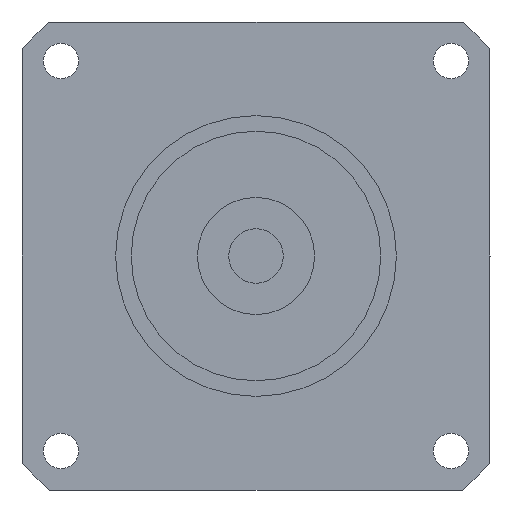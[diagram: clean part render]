
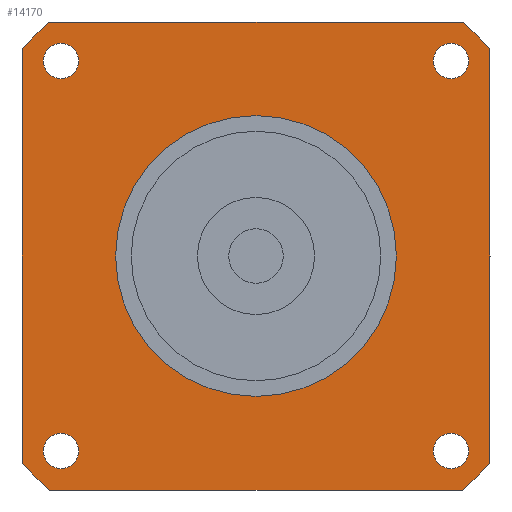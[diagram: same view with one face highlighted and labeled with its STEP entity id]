
A CAD part, left-side view. The second image highlights one B-rep face of the part: STEP entity #14170.
In plain terms, the highlighted planar face has unit normal (-1, 0, 0) as drawn and (0, 0, -1) by its records, which use the part's own axes.
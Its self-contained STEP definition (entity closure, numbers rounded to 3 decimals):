
#8830=CARTESIAN_POINT('',(-30.,-26.458,-35.1));
#8840=VERTEX_POINT('',#8830);
#8890=CARTESIAN_POINT('',(-30.,-30.,-35.1));
#8900=DIRECTION('',(0.,1.,0.));
#8910=VECTOR('',#8900,1000.);
#8920=LINE('',#8890,#8910);
#8930=CARTESIAN_POINT('',(-30.,26.458,-35.1));
#8940=VERTEX_POINT('',#8930);
#8950=EDGE_CURVE('',#8840,#8940,#8920,.T.);
#9340=CARTESIAN_POINT('',(22.75,-25.,-35.1));
#9350=VERTEX_POINT('',#9340);
#9380=CARTESIAN_POINT('',(25.,-25.,-35.1));
#9390=DIRECTION('',(0.,0.,-1.));
#9400=DIRECTION('',(1.,0.,0.));
#9410=AXIS2_PLACEMENT_3D('',#9380,#9390,#9400);
#9420=CIRCLE('',#9410,2.25);
#9430=CARTESIAN_POINT('',(27.25,-25.,-35.1));
#9440=VERTEX_POINT('',#9430);
#9450=EDGE_CURVE('',#9440,#9350,#9420,.T.);
#12690=CARTESIAN_POINT('',(-25.,-22.75,-35.1));
#12700=VERTEX_POINT('',#12690);
#12730=CARTESIAN_POINT('',(-25.,-25.,-35.1));
#12740=DIRECTION('',(0.,0.,-1.));
#12750=DIRECTION('',(0.,-1.,0.));
#12760=AXIS2_PLACEMENT_3D('',#12730,#12740,#12750);
#12770=CIRCLE('',#12760,2.25);
#12780=CARTESIAN_POINT('',(-25.,-27.25,-35.1));
#12790=VERTEX_POINT('',#12780);
#12800=EDGE_CURVE('',#12790,#12700,#12770,.T.);
#12920=CARTESIAN_POINT('',(30.,30.,-35.1));
#12930=DIRECTION('',(0.,0.,-1.));
#12940=DIRECTION('',(1.,0.,0.));
#12950=AXIS2_PLACEMENT_3D('',#12920,#12930,#12940);
#12960=PLANE('',#12950);
#12970=ORIENTED_EDGE('',*,*,#12800,.F.);
#12980=EDGE_CURVE('',#12700,#12790,#12770,.T.);
#12990=ORIENTED_EDGE('',*,*,#12980,.F.);
#13000=EDGE_LOOP('',(#12990,#12970));
#13010=FACE_BOUND('',#13000,.T.);
#13020=CARTESIAN_POINT('',(-25.,25.,-35.1));
#13030=DIRECTION('',(0.,0.,-1.));
#13040=DIRECTION('',(-1.,0.,0.));
#13050=AXIS2_PLACEMENT_3D('',#13020,#13030,#13040);
#13060=CIRCLE('',#13050,2.25);
#13070=CARTESIAN_POINT('',(-27.25,25.,-35.1));
#13080=VERTEX_POINT('',#13070);
#13090=CARTESIAN_POINT('',(-22.75,25.,-35.1));
#13100=VERTEX_POINT('',#13090);
#13110=EDGE_CURVE('',#13080,#13100,#13060,.T.);
#13120=ORIENTED_EDGE('',*,*,#13110,.F.);
#13130=EDGE_CURVE('',#13100,#13080,#13060,.T.);
#13140=ORIENTED_EDGE('',*,*,#13130,.F.);
#13150=EDGE_LOOP('',(#13140,#13120));
#13160=FACE_BOUND('',#13150,.T.);
#13170=CARTESIAN_POINT('',(25.,25.,-35.1));
#13180=DIRECTION('',(0.,0.,-1.));
#13190=DIRECTION('',(0.,1.,0.));
#13200=AXIS2_PLACEMENT_3D('',#13170,#13180,#13190);
#13210=CIRCLE('',#13200,2.25);
#13220=CARTESIAN_POINT('',(25.,27.25,-35.1));
#13230=VERTEX_POINT('',#13220);
#13240=CARTESIAN_POINT('',(25.,22.75,-35.1));
#13250=VERTEX_POINT('',#13240);
#13260=EDGE_CURVE('',#13230,#13250,#13210,.T.);
#13270=ORIENTED_EDGE('',*,*,#13260,.F.);
#13280=EDGE_CURVE('',#13250,#13230,#13210,.T.);
#13290=ORIENTED_EDGE('',*,*,#13280,.F.);
#13300=EDGE_LOOP('',(#13290,#13270));
#13310=FACE_BOUND('',#13300,.T.);
#13320=CARTESIAN_POINT('',(0.,0.,
-35.1));
#13330=DIRECTION('',(0.,0.,1.));
#13340=DIRECTION('',(0.,1.,0.));
#13350=AXIS2_PLACEMENT_3D('',#13320,#13330,#13340);
#13360=CIRCLE('',#13350,18.);
#13370=CARTESIAN_POINT('',(-18.,0.,-35.1));
#13380=VERTEX_POINT('',#13370);
#13390=CARTESIAN_POINT('',(18.,0.,-35.1));
#13400=VERTEX_POINT('',#13390);
#13410=EDGE_CURVE('',#13380,#13400,#13360,.T.);
#13420=ORIENTED_EDGE('',*,*,#13410,.T.);
#13430=CARTESIAN_POINT('',(0.,18.,-35.1));
#13440=VERTEX_POINT('',#13430);
#13450=EDGE_CURVE('',#13440,#13380,#13360,.T.);
#13460=ORIENTED_EDGE('',*,*,#13450,.T.);
#13470=EDGE_CURVE('',#13400,#13440,#13360,.T.);
#13480=ORIENTED_EDGE('',*,*,#13470,.T.);
#13490=EDGE_LOOP('',(#13480,#13460,#13420));
#13500=FACE_BOUND('',#13490,.T.);
#13510=CARTESIAN_POINT('',(-30.,30.,-35.1));
#13520=DIRECTION('',(1.,0.,0.));
#13530=VECTOR('',#13520,1000.);
#13540=LINE('',#13510,#13530);
#13550=CARTESIAN_POINT('',(-26.458,30.,-35.1));
#13560=VERTEX_POINT('',#13550);
#13570=CARTESIAN_POINT('',(26.458,30.,-35.1));
#13580=VERTEX_POINT('',#13570);
#13590=EDGE_CURVE('',#13560,#13580,#13540,.T.);
#13600=ORIENTED_EDGE('',*,*,#13590,.T.);
#13610=CARTESIAN_POINT('',(0.,0.,-35.1));
#13620=DIRECTION('',(0.,0.,-1.));
#13630=DIRECTION('',(1.,0.,0.));
#13640=AXIS2_PLACEMENT_3D('',#13610,#13620,#13630);
#13650=CIRCLE('',#13640,40.);
#13660=EDGE_CURVE('',#8940,#13560,#13650,.T.);
#13670=ORIENTED_EDGE('',*,*,#13660,.T.);
#13680=ORIENTED_EDGE('',*,*,#8950,.T.);
#13690=CARTESIAN_POINT('',(0.,0.,-35.1));
#13700=DIRECTION('',(0.,0.,-1.));
#13710=DIRECTION('',(1.,0.,0.));
#13720=AXIS2_PLACEMENT_3D('',#13690,#13700,#13710);
#13730=CIRCLE('',#13720,40.);
#13740=CARTESIAN_POINT('',(-26.458,-30.,-35.1));
#13750=VERTEX_POINT('',#13740);
#13760=EDGE_CURVE('',#13750,#8840,#13730,.T.);
#13770=ORIENTED_EDGE('',*,*,#13760,.T.);
#13780=CARTESIAN_POINT('',(30.,-30.,-35.1));
#13790=DIRECTION('',(-1.,0.,0.));
#13800=VECTOR('',#13790,1000.);
#13810=LINE('',#13780,#13800);
#13820=CARTESIAN_POINT('',(26.458,-30.,-35.1));
#13830=VERTEX_POINT('',#13820);
#13840=EDGE_CURVE('',#13830,#13750,#13810,.T.);
#13850=ORIENTED_EDGE('',*,*,#13840,.T.);
#13860=CARTESIAN_POINT('',(0.,0.,-35.1));
#13870=DIRECTION('',(0.,0.,-1.));
#13880=DIRECTION('',(1.,0.,0.));
#13890=AXIS2_PLACEMENT_3D('',#13860,#13870,#13880);
#13900=CIRCLE('',#13890,40.);
#13910=CARTESIAN_POINT('',(30.,-26.458,-35.1));
#13920=VERTEX_POINT('',#13910);
#13930=EDGE_CURVE('',#13920,#13830,#13900,.T.);
#13940=ORIENTED_EDGE('',*,*,#13930,.T.);
#13950=CARTESIAN_POINT('',(30.,30.,-35.1));
#13960=DIRECTION('',(0.,-1.,0.));
#13970=VECTOR('',#13960,1000.);
#13980=LINE('',#13950,#13970);
#13990=CARTESIAN_POINT('',(30.,26.458,-35.1));
#14000=VERTEX_POINT('',#13990);
#14010=EDGE_CURVE('',#14000,#13920,#13980,.T.);
#14020=ORIENTED_EDGE('',*,*,#14010,.T.);
#14030=CARTESIAN_POINT('',(0.,0.,-35.1));
#14040=DIRECTION('',(0.,0.,-1.));
#14050=DIRECTION('',(1.,0.,0.));
#14060=AXIS2_PLACEMENT_3D('',#14030,#14040,#14050);
#14070=CIRCLE('',#14060,40.);
#14080=EDGE_CURVE('',#13580,#14000,#14070,.T.);
#14090=ORIENTED_EDGE('',*,*,#14080,.T.);
#14100=EDGE_LOOP('',(#14090,#14020,#13940,#13850,#13770,#13680,#13670,
#13600));
#14110=FACE_OUTER_BOUND('',#14100,.T.);
#14120=ORIENTED_EDGE('',*,*,#9450,.F.);
#14130=EDGE_CURVE('',#9350,#9440,#9420,.T.);
#14140=ORIENTED_EDGE('',*,*,#14130,.F.);
#14150=EDGE_LOOP('',(#14140,#14120));
#14160=FACE_BOUND('',#14150,.T.);
#14170=ADVANCED_FACE('',(#13010,#13160,#13310,#13500,#14110,#14160),
#12960,.T.);
